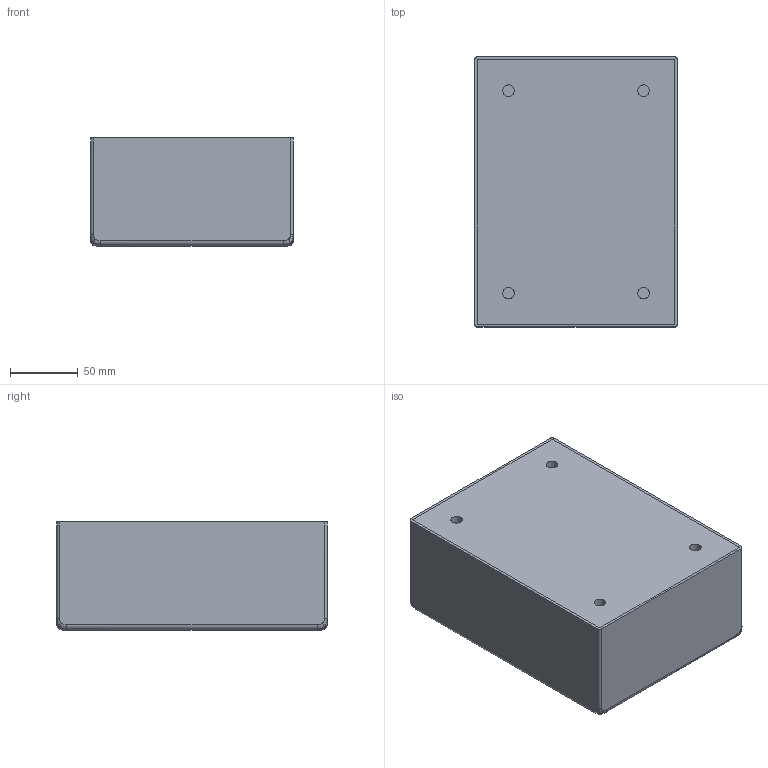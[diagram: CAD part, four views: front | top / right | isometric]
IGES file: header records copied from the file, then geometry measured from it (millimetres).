
Global section: file name: SMB-15-20; native system: unknown; preprocessor: unknown; author: unknown; organization: unknown; date: 20230705.141307; units: millimetre
Bounding box: 150 x 200 x 80 mm (x, y, z)
Volume: 506467 mm3; surface area: 233514 mm2
Topology: 2 solids, 2 shells, 57 faces, 148 edges, 96 vertices
Faces by surface type: bspline 57
